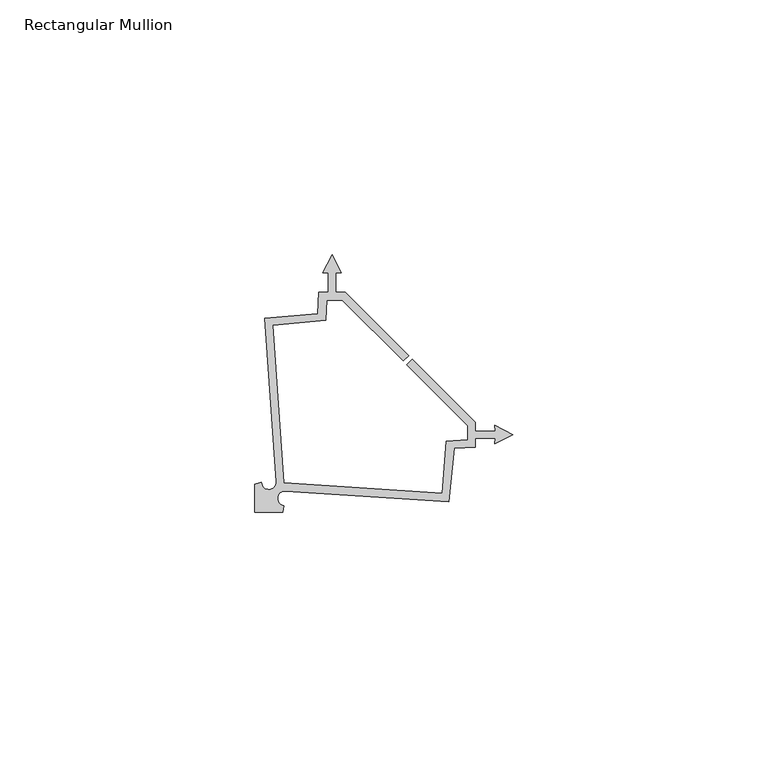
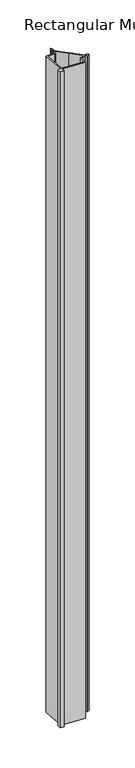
"""IFC4 building model written with IfcOpenShell, lengths in millimetres: member geometry, Rectangular Mullion : Renson_Linarte_LA-A04."""

import ifcopenshell
import ifcopenshell.guid

model = None  # the IFC model being written
_history = None  # IfcOwnerHistory: only IFC2X3 demands one
_inside = {}  # id of a spatial element -> (the spatial element, [elements in it])
_under = {}  # id of a project, library or spatial element -> (it, [spatial elements below it])
_declared = {}  # id of a project -> (the project, [libraries it declares])
_typed = {}  # id of a type object -> (the type object, [elements of that type])
_made_of = {}  # id of a material, layer set ... -> (it, [elements and type objects made of it])


def new_model(schema):
    """Start an empty IFC model of exactly this schema.

    Asked for "IFC4X3", IfcOpenShell would pick the latest addendum, in which some entities
    have other attributes; the version numbers below select the first issue.
    IFC2X3 requires an IfcOwnerHistory on every rooted entity: one is made here for all.
    """
    global model, _history
    if schema == "IFC4X3":
        model = ifcopenshell.file(schema_version=(4, 3, 0, 0))
    else:
        model = ifcopenshell.file(schema=schema)
    _inside.clear()
    _under.clear()
    _declared.clear()
    _typed.clear()
    _made_of.clear()
    _history = None
    if model.schema == "IFC2X3":
        org = make("IfcOrganization", Name="unknown")
        user = make(
            "IfcPersonAndOrganization",
            ThePerson=make("IfcPerson", FamilyName="unknown"),
            TheOrganization=org,
        )
        app = make(
            "IfcApplication",
            ApplicationDeveloper=org,
            Version="unknown",
            ApplicationFullName="unknown",
            ApplicationIdentifier="unknown",
        )
        _history = make(
            "IfcOwnerHistory",
            OwningUser=user,
            OwningApplication=app,
            ChangeAction="ADDED",
            CreationDate=0,
        )
    return model


def make(cls, **values):
    """One entity of the class cls with the attributes given. An attribute that is None is left unset."""
    return model.create_entity(
        cls, **{name: value for name, value in values.items() if value is not None}
    )


def rooted(cls, **values):
    """An entity with a GlobalId (a new one), such as an element, a storey or a relation."""
    return make(cls, GlobalId=ifcopenshell.guid.new(), OwnerHistory=_history, **values)


def si_unit(unit_type, name, prefix=None):
    """IfcSIUnit, for example si_unit("LENGTHUNIT", "METRE", prefix="MILLI")."""
    return make("IfcSIUnit", UnitType=unit_type, Prefix=prefix, Name=name)


def assignment(units):
    """IfcUnitAssignment: the units of a project."""
    return None if units is None else make("IfcUnitAssignment", Units=units)


def point(xyz):
    """IfcCartesianPoint."""
    return None if xyz is None else make("IfcCartesianPoint", Coordinates=xyz)


def direction(xyz):
    """IfcDirection."""
    return None if xyz is None else make("IfcDirection", DirectionRatios=xyz)


def frame(location, z_axis=None, x_axis=None):
    """IfcAxis2Placement3D, a coordinate frame: its origin and axes. An axis left out is left unset."""
    return make(
        "IfcAxis2Placement3D",
        Location=point(location),
        Axis=direction(z_axis),
        RefDirection=direction(x_axis),
    )


def frame_2d(location, x_axis=None):
    """IfcAxis2Placement2D, a coordinate frame in the plane: its origin and x axis."""
    return make(
        "IfcAxis2Placement2D", Location=point(location), RefDirection=direction(x_axis)
    )


def origin():
    """The frame at (0, 0, 0) with its axes left unset."""
    return frame((0.0, 0.0, 0.0))


def place(relative_to, where):
    """IfcLocalPlacement: puts the frame where relative to a parent placement (None: the world)."""
    return make(
        "IfcLocalPlacement", PlacementRelTo=relative_to, RelativePlacement=where
    )


def context(
    kind, dimensions, precision=None, world=None, true_north=None, identifier=None
):
    """IfcGeometricRepresentationContext, for example the 3D "Model" context."""
    return make(
        "IfcGeometricRepresentationContext",
        ContextIdentifier=identifier,
        ContextType=kind,
        CoordinateSpaceDimension=dimensions,
        Precision=precision,
        WorldCoordinateSystem=world,
        TrueNorth=true_north,
    )


def project(units=None, contexts=None):
    """IfcProject with its units and contexts."""
    return rooted(
        "IfcProject",
        Name="project",
        RepresentationContexts=contexts,
        UnitsInContext=assignment(units),
    )


def spatial(cls, under=None, at=None, **own):
    """A site, building, storey or space (cls), placed at a placement, below another one or the project."""
    s = rooted(cls, ObjectPlacement=at, **own)
    if under is not None:
        _under.setdefault(under.id(), (under, []))[1].append(s)
    return s


def polyline(points):
    """IfcPolyline through the points."""
    return make("IfcPolyline", Points=[point(p) for p in points])


def circle_curve(where, radius):
    """IfcCircle in the frame where."""
    return make("IfcCircle", Position=where, Radius=radius)


def trimmed(basis, trim1, trim2, sense, master):
    """IfcTrimmedCurve: the piece of a basis curve between two trims."""
    return make(
        "IfcTrimmedCurve",
        BasisCurve=basis,
        Trim1=trim1,
        Trim2=trim2,
        SenseAgreement=sense,
        MasterRepresentation=master,
    )


def segment(curve, same_sense, transition):
    """IfcCompositeCurveSegment."""
    return make(
        "IfcCompositeCurveSegment",
        Transition=transition,
        SameSense=same_sense,
        ParentCurve=curve,
    )


def composite_curve(segments, self_intersect=None):
    """IfcCompositeCurve: segments joined end to end."""
    return make("IfcCompositeCurve", Segments=segments, SelfIntersect=self_intersect)


def outline(outer, holes=None, kind="AREA"):
    """IfcArbitraryClosedProfileDef: a profile drawn as a closed curve; with holes, ...WithVoids."""
    if holes is None:
        return make("IfcArbitraryClosedProfileDef", ProfileType=kind, OuterCurve=outer)
    return make(
        "IfcArbitraryProfileDefWithVoids",
        ProfileType=kind,
        OuterCurve=outer,
        InnerCurves=holes,
    )


def extrude(swept, where, along, depth):
    """IfcExtrudedAreaSolid: the profile swept, set in the frame where, extruded along a direction by depth."""
    return make(
        "IfcExtrudedAreaSolid",
        SweptArea=swept,
        Position=where,
        ExtrudedDirection=direction(along),
        Depth=depth,
    )


def shape(context_of_items, identifier, shape_type, items):
    """IfcShapeRepresentation: the items that make up one representation, for example the "Body"."""
    return make(
        "IfcShapeRepresentation",
        ContextOfItems=context_of_items,
        RepresentationIdentifier=identifier,
        RepresentationType=shape_type,
        Items=items,
    )


def source(mapping_origin, context_of_items, identifier, shape_type, items):
    """IfcRepresentationMap: a shape defined once, which mapped items show again and again."""
    return make(
        "IfcRepresentationMap",
        MappingOrigin=mapping_origin,
        MappedRepresentation=shape(context_of_items, identifier, shape_type, items),
    )


def transform(
    local_origin,
    x_axis=None,
    y_axis=None,
    z_axis=None,
    scale=None,
    scale2=None,
    scale3=None,
    uniform=True,
):
    """IfcCartesianTransformationOperator3D, or its non-uniform kind. x_axis, y_axis, z_axis: its Axis1, 2, 3."""
    if uniform:
        return make(
            "IfcCartesianTransformationOperator3D",
            Axis1=direction(x_axis),
            Axis2=direction(y_axis),
            LocalOrigin=point(local_origin),
            Scale=scale,
            Axis3=direction(z_axis),
        )
    return make(
        "IfcCartesianTransformationOperator3DnonUniform",
        Axis1=direction(x_axis),
        Axis2=direction(y_axis),
        LocalOrigin=point(local_origin),
        Scale=scale,
        Axis3=direction(z_axis),
        Scale2=scale2,
        Scale3=scale3,
    )


def mapped(mapping_source, mapping_target):
    """IfcMappedItem: shows the shape of a source again, moved by a transform."""
    return make(
        "IfcMappedItem", MappingSource=mapping_source, MappingTarget=mapping_target
    )


def made_of(thing, what):
    """Note that an element or type object is made of a material, layer set ...; save() writes the relation."""
    if what is not None:
        _made_of.setdefault(what.id(), (what, []))[1].append(thing)
    return thing


def element(
    cls,
    number,
    at=None,
    inside=None,
    cuts=None,
    type_object=None,
    material=None,
    context=None,
    identifier="Body",
    shape_type=None,
    held_by="IfcProductDefinitionShape",
    body=None,
    shapes=None,
    **own,
):
    """One element of the class cls, such as IfcWall. Its Tag is "e" and its number.

    at: its placement. inside: the storey or other place that contains it. cuts: it is an
    opening in that element (IfcRelVoidsElement). A single representation is given by context,
    identifier, shape_type and body (its items); several are given by shapes. held_by: the class
    of the entity that holds the representations. save() writes the other relations.
    """
    e = rooted(cls, Tag="e%d" % number, ObjectPlacement=at, **own)
    if body is not None:
        shapes = [shape(context, identifier, shape_type, body)]
    if shapes is not None:
        e.Representation = make(held_by, Representations=shapes)
    if inside is not None:
        _inside.setdefault(inside.id(), (inside, []))[1].append(e)
    if cuts is not None:
        rooted(
            "IfcRelVoidsElement", RelatingBuildingElement=cuts, RelatedOpeningElement=e
        )
    if type_object is not None:
        _typed.setdefault(type_object.id(), (type_object, []))[1].append(e)
    return made_of(e, material)


def aggregate(whole, parts):
    """IfcRelAggregates: a whole, such as a stair, and the parts it consists of."""
    return rooted("IfcRelAggregates", RelatingObject=whole, RelatedObjects=parts)


def save(model, path):
    """Write the relations noted so far, then the file.

    IfcRelAggregates (storeys below a building ...), IfcRelContainedInSpatialStructure (elements
    in a storey), IfcRelDefinesByType, IfcRelAssociatesMaterial and IfcRelDeclares: one each for
    every whole, place, type object, material and project.
    """
    for whole, parts in _under.values():
        aggregate(whole, parts)
    for where, things in _inside.values():
        rooted(
            "IfcRelContainedInSpatialStructure",
            RelatedElements=things,
            RelatingStructure=where,
        )
    for kind, things in _typed.values():
        rooted("IfcRelDefinesByType", RelatedObjects=things, RelatingType=kind)
    for what, things in _made_of.values():
        rooted("IfcRelAssociatesMaterial", RelatedObjects=things, RelatingMaterial=what)
    for by, libraries in _declared.values():
        rooted("IfcRelDeclares", RelatingContext=by, RelatedDefinitions=libraries)
    model.write(path)


def rectangular_mullion_2a772050(model_context):
    return source(origin(), model_context, "Body", "SweptSolid", [
        extrude(outline(composite_curve([segment(polyline([(-38.635145, -25.0378474), (-36.8194083, -28.6014348), (-37.9351461, -28.5038204), (-37.9351461, -32.4038204), (-36.0003373, -32.4038204), (-23.5874674, -44.7907323), (-24.6625742, -45.8658391), (-36.6210349, -33.9038204), (-39.6851537, -33.9038204), (-39.9072611, -37.9211718), (-50.2249224, -38.8347333), (-48.1040211, -69.7238868), (-17.0581452, -71.7729951), (-16.1788489, -61.5999627), (-11.997112, -61.3599852), (-11.997112, -58.5350697), (-23.9555726, -46.573051), (-22.8796205, -45.4970989), (-10.497112, -57.853713), (-10.497112, -59.6043502), (-6.6144167, -59.6043502), (-6.7120308, -58.4886148), (-3.1484433, -60.3043515), (-6.7120308, -62.1200882), (-6.6144162, -61.0043494), (-10.497112, -61.0043494), (-10.497112, -62.7763726), (-14.6584382, -63.0151788), (-15.7096702, -73.5134284), (-47.7866452, -71.3784263)]), True, "CONTINUOUS"), segment(trimmed(circle_curve(frame_2d((-47.8826514, -72.8208543)), 1.4456195), [point((-47.7866452, -71.3784263))], [point((-48.0922529, -74.2511979))], True, "CARTESIAN"), True, "CONTINUOUS"), segment(polyline([(-48.0922529, -74.2511979), (-48.2822813, -75.5479727), (-53.7828016, -75.5479727), (-53.7828016, -70.0537325), (-52.5065459, -69.6974571)]), True, "CONTINUOUS"), segment(trimmed(circle_curve(frame_2d((-51.0617592, -69.6483946)), 1.4456195), [point((-52.5065459, -69.6974571))], [point((-49.6195354, -69.5493691))], True, "CARTESIAN"), True, "CONTINUOUS"), segment(polyline([(-49.6195354, -69.5493691), (-51.8221391, -37.470288), (-41.4600204, -36.55279), (-41.2509602, -32.4038204), (-39.3351463, -32.4038204), (-39.3351463, -28.5038207), (-40.4508816, -28.6014348), (-38.635145, -25.0378474)]), True, "CONTINUOUS")], self_intersect=False)), frame((0.0, 0.0, -1000.0), z_axis=(0.0, 0.0, 1.0), x_axis=(1.0, 0.0, 0.0)), (0.0, 0.0, 1.0), 1000.0),
    ])


if __name__ == "__main__":
    model = new_model("IFC4")
    model_context = context("Model", 3, world=origin())
    ifc_project = project(units=[si_unit("LENGTHUNIT", "METRE", prefix="MILLI")], contexts=[model_context])
    site = spatial("IfcSite", under=ifc_project)
    building = spatial("IfcBuilding", under=site)
    placement = place(None, origin())
    rectangular_mullion_shape = rectangular_mullion_2a772050(model_context)
    element("IfcMember", 1, ObjectType="Rectangular Mullion : Renson_Linarte_LA-A04", at=placement, inside=building, context=model_context, shape_type="MappedRepresentation", body=[
        mapped(rectangular_mullion_shape, transform((0.0, 0.0, 0.0), x_axis=(1.0, 0.0, 0.0), y_axis=(0.0, 1.0, 0.0), z_axis=(0.0, 0.0, 1.0))),
    ])
    save(model, "model.ifc")
